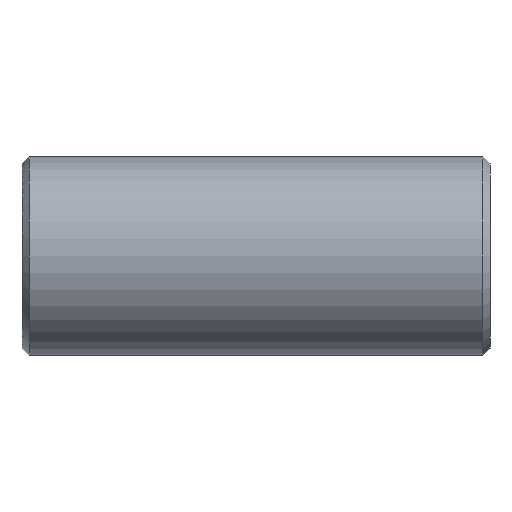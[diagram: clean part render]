
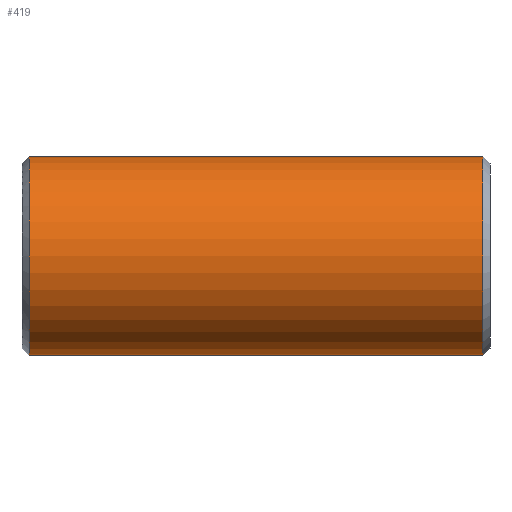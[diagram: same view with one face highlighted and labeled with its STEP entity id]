
A CAD part, front view. The second image highlights one B-rep face of the part: STEP entity #419.
In plain terms, the highlighted cylindrical face has radius 14 mm (diameter 28 mm), a partial arc.
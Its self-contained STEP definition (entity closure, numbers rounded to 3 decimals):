
#231=CARTESIAN_POINT('Vertex',(1.,0.,-14.)) ;
#238=CARTESIAN_POINT('Vertex',(1.,0.,14.)) ;
#267=CARTESIAN_POINT('Axis2P3D Location',(1.,0.,0.)) ;
#271=CARTESIAN_POINT('Vertex',(1.,-14.,0.)) ;
#274=CARTESIAN_POINT('Axis2P3D Location',(1.,0.,0.)) ;
#359=CARTESIAN_POINT('Line Origine',(66.,0.,14.)) ;
#363=CARTESIAN_POINT('Vertex',(65.,0.,14.)) ;
#377=CARTESIAN_POINT('Vertex',(65.,0.,-14.)) ;
#380=CARTESIAN_POINT('Line Origine',(66.,0.,-14.)) ;
#394=CARTESIAN_POINT('Axis2P3D Location',(66.,0.,0.)) ;
#399=CARTESIAN_POINT('Axis2P3D Location',(65.,0.,0.)) ;
#403=CARTESIAN_POINT('Vertex',(65.,-14.,0.)) ;
#406=CARTESIAN_POINT('Axis2P3D Location',(65.,0.,0.)) ;
#268=DIRECTION('Axis2P3D Direction',(1.,0.,-0.)) ;
#275=DIRECTION('Axis2P3D Direction',(1.,0.,-0.)) ;
#360=DIRECTION('Vector Direction',(-1.,0.,0.)) ;
#381=DIRECTION('Vector Direction',(-1.,0.,0.)) ;
#395=DIRECTION('Axis2P3D Direction',(-1.,-0.,-0.)) ;
#396=DIRECTION('Axis2P3D XDirection',(0.,0.,-1.)) ;
#400=DIRECTION('Axis2P3D Direction',(-1.,-0.,-0.)) ;
#407=DIRECTION('Axis2P3D Direction',(-1.,-0.,-0.)) ;
#269=AXIS2_PLACEMENT_3D('Circle Axis2P3D',#267,#268,$) ;
#276=AXIS2_PLACEMENT_3D('Circle Axis2P3D',#274,#275,$) ;
#397=AXIS2_PLACEMENT_3D('Cylinder Axis2P3D',#394,#395,#396) ;
#401=AXIS2_PLACEMENT_3D('Circle Axis2P3D',#399,#400,$) ;
#408=AXIS2_PLACEMENT_3D('Circle Axis2P3D',#406,#407,$) ;
#412=ORIENTED_EDGE('',*,*,#384,.T.) ;
#413=ORIENTED_EDGE('',*,*,#405,.F.) ;
#414=ORIENTED_EDGE('',*,*,#410,.F.) ;
#415=ORIENTED_EDGE('',*,*,#365,.T.) ;
#416=ORIENTED_EDGE('',*,*,#278,.T.) ;
#417=ORIENTED_EDGE('',*,*,#273,.T.) ;
#361=VECTOR('Line Direction',#360,1.) ;
#382=VECTOR('Line Direction',#381,1.) ;
#419=ADVANCED_FACE('352-20X66',(#418),#398,.T.) ;
#270=CIRCLE('generated circle',#269,14.) ;
#277=CIRCLE('generated circle',#276,14.) ;
#402=CIRCLE('generated circle',#401,14.) ;
#409=CIRCLE('generated circle',#408,14.) ;
#398=CYLINDRICAL_SURFACE('generated cylinder',#397,14.) ;
#273=EDGE_CURVE('',#272,#232,#270,.T.) ;
#278=EDGE_CURVE('',#239,#272,#277,.T.) ;
#365=EDGE_CURVE('',#364,#239,#362,.T.) ;
#384=EDGE_CURVE('',#232,#378,#383,.F.) ;
#405=EDGE_CURVE('',#404,#378,#402,.F.) ;
#410=EDGE_CURVE('',#364,#404,#409,.F.) ;
#411=EDGE_LOOP('',(#412,#413,#414,#415,#416,#417)) ;
#418=FACE_OUTER_BOUND('',#411,.T.) ;
#362=LINE('Line',#359,#361) ;
#383=LINE('Line',#380,#382) ;
#232=VERTEX_POINT('',#231) ;
#239=VERTEX_POINT('',#238) ;
#272=VERTEX_POINT('',#271) ;
#364=VERTEX_POINT('',#363) ;
#378=VERTEX_POINT('',#377) ;
#404=VERTEX_POINT('',#403) ;
